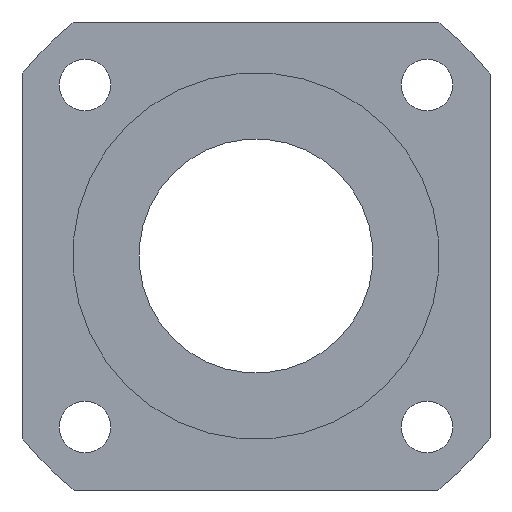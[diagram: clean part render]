
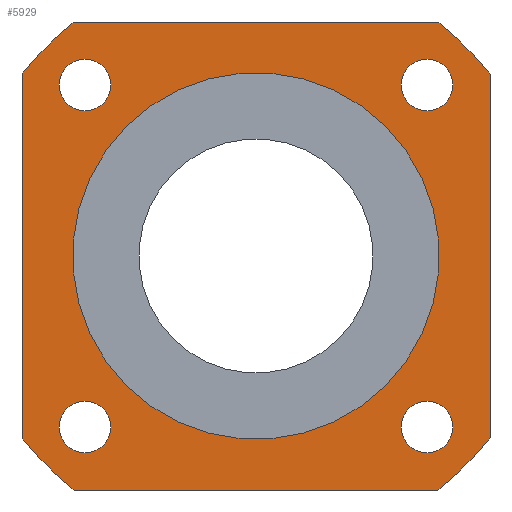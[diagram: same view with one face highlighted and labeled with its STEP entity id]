
A CAD part, left-side view. The second image highlights one B-rep face of the part: STEP entity #5929.
In plain terms, the highlighted planar face has unit normal (-1, 0, 0).
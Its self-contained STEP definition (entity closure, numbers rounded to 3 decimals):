
#108=CIRCLE('',#6289,38.);
#109=CIRCLE('',#6291,38.);
#110=CIRCLE('',#6293,38.);
#120=CIRCLE('',#6308,23.5);
#122=CIRCLE('',#6313,38.);
#123=CIRCLE('',#6314,3.3);
#124=CIRCLE('',#6315,3.3);
#125=CIRCLE('',#6316,3.3);
#126=CIRCLE('',#6317,3.3);
#546=ORIENTED_EDGE('',*,*,#2254,.T.);
#547=ORIENTED_EDGE('',*,*,#2237,.F.);
#548=ORIENTED_EDGE('',*,*,#2255,.T.);
#549=ORIENTED_EDGE('',*,*,#2240,.F.);
#550=ORIENTED_EDGE('',*,*,#2256,.T.);
#551=ORIENTED_EDGE('',*,*,#2257,.F.);
#552=ORIENTED_EDGE('',*,*,#2258,.T.);
#553=ORIENTED_EDGE('',*,*,#2235,.F.);
#554=ORIENTED_EDGE('',*,*,#2259,.T.);
#555=ORIENTED_EDGE('',*,*,#2260,.T.);
#556=ORIENTED_EDGE('',*,*,#2261,.T.);
#557=ORIENTED_EDGE('',*,*,#2262,.T.);
#558=ORIENTED_EDGE('',*,*,#2252,.T.);
#2235=EDGE_CURVE('',#3091,#3092,#108,.T.);
#2237=EDGE_CURVE('',#3093,#3094,#109,.T.);
#2240=EDGE_CURVE('',#3095,#3096,#110,.T.);
#2252=EDGE_CURVE('',#3106,#3106,#120,.T.);
#2254=EDGE_CURVE('',#3091,#3094,#3616,.T.);
#2255=EDGE_CURVE('',#3093,#3096,#3617,.T.);
#2256=EDGE_CURVE('',#3095,#3108,#3618,.T.);
#2257=EDGE_CURVE('',#3109,#3108,#122,.T.);
#2258=EDGE_CURVE('',#3109,#3092,#3619,.T.);
#2259=EDGE_CURVE('',#3110,#3110,#123,.T.);
#2260=EDGE_CURVE('',#3111,#3111,#124,.T.);
#2261=EDGE_CURVE('',#3112,#3112,#125,.T.);
#2262=EDGE_CURVE('',#3113,#3113,#126,.T.);
#3091=VERTEX_POINT('',#9346);
#3092=VERTEX_POINT('',#9348);
#3093=VERTEX_POINT('',#9352);
#3094=VERTEX_POINT('',#9353);
#3095=VERTEX_POINT('',#9358);
#3096=VERTEX_POINT('',#9359);
#3106=VERTEX_POINT('',#9386);
#3108=VERTEX_POINT('',#9395);
#3109=VERTEX_POINT('',#9397);
#3110=VERTEX_POINT('',#9400);
#3111=VERTEX_POINT('',#9402);
#3112=VERTEX_POINT('',#9404);
#3113=VERTEX_POINT('',#9406);
#3616=LINE('',#9392,#4319);
#3617=LINE('',#9393,#4320);
#3618=LINE('',#9394,#4321);
#3619=LINE('',#9398,#4322);
#4319=VECTOR('',#6882,1000.);
#4320=VECTOR('',#6883,1000.);
#4321=VECTOR('',#6884,1000.);
#4322=VECTOR('',#6887,1000.);
#4870=EDGE_LOOP('',(#546,#547,#548,#549,#550,#551,#552,#553));
#4871=EDGE_LOOP('',(#554));
#4872=EDGE_LOOP('',(#555));
#4873=EDGE_LOOP('',(#556));
#4874=EDGE_LOOP('',(#557));
#4875=EDGE_LOOP('',(#558));
#5291=FACE_BOUND('',#4870,.T.);
#5292=FACE_BOUND('',#4871,.T.);
#5293=FACE_BOUND('',#4872,.T.);
#5294=FACE_BOUND('',#4873,.T.);
#5295=FACE_BOUND('',#4874,.T.);
#5296=FACE_BOUND('',#4875,.T.);
#5656=PLANE('',#6312);
#5929=ADVANCED_FACE('',(#5291,#5292,#5293,#5294,#5295,#5296),#5656,.F.);
#6289=AXIS2_PLACEMENT_3D('',#9347,#6829,#6830);
#6291=AXIS2_PLACEMENT_3D('',#9351,#6834,#6835);
#6293=AXIS2_PLACEMENT_3D('',#9357,#6840,#6841);
#6308=AXIS2_PLACEMENT_3D('',#9385,#6872,#6873);
#6312=AXIS2_PLACEMENT_3D('',#9391,#6880,#6881);
#6313=AXIS2_PLACEMENT_3D('',#9396,#6885,#6886);
#6314=AXIS2_PLACEMENT_3D('',#9399,#6888,#6889);
#6315=AXIS2_PLACEMENT_3D('',#9401,#6890,#6891);
#6316=AXIS2_PLACEMENT_3D('',#9403,#6892,#6893);
#6317=AXIS2_PLACEMENT_3D('',#9405,#6894,#6895);
#6829=DIRECTION('',(1.,0.,0.));
#6830=DIRECTION('',(0.,0.707,-0.707));
#6834=DIRECTION('',(1.,0.,0.));
#6835=DIRECTION('',(0.,0.707,-0.707));
#6840=DIRECTION('',(1.,0.,0.));
#6841=DIRECTION('',(0.,0.707,-0.707));
#6872=DIRECTION('',(1.,0.,0.));
#6873=DIRECTION('',(0.,0.707,-0.707));
#6880=DIRECTION('',(1.,0.,0.));
#6881=DIRECTION('',(0.,0.707,-0.707));
#6882=DIRECTION('',(0.,1.,0.));
#6883=DIRECTION('',(0.,0.,-1.));
#6884=DIRECTION('',(0.,-1.,0.));
#6885=DIRECTION('',(1.,0.,0.));
#6886=DIRECTION('',(0.,0.707,-0.707));
#6887=DIRECTION('',(0.,0.,1.));
#6888=DIRECTION('',(1.,0.,0.));
#6889=DIRECTION('',(0.,0.707,-0.707));
#6890=DIRECTION('',(1.,0.,0.));
#6891=DIRECTION('',(0.,0.707,-0.707));
#6892=DIRECTION('',(1.,0.,0.));
#6893=DIRECTION('',(0.,0.707,-0.707));
#6894=DIRECTION('',(1.,0.,0.));
#6895=DIRECTION('',(0.,0.707,-0.707));
#9346=CARTESIAN_POINT('',(51.5,-23.324,30.));
#9347=CARTESIAN_POINT('',(51.5,0.,0.));
#9348=CARTESIAN_POINT('',(51.5,-30.,23.324));
#9351=CARTESIAN_POINT('',(51.5,0.,0.));
#9352=CARTESIAN_POINT('',(51.5,30.,23.324));
#9353=CARTESIAN_POINT('',(51.5,23.324,30.));
#9357=CARTESIAN_POINT('',(51.5,0.,0.));
#9358=CARTESIAN_POINT('',(51.5,23.324,-30.));
#9359=CARTESIAN_POINT('',(51.5,30.,-23.324));
#9385=CARTESIAN_POINT('',(51.5,0.,0.));
#9386=CARTESIAN_POINT('',(51.5,16.617,-16.617));
#9391=CARTESIAN_POINT('',(51.5,0.,0.));
#9392=CARTESIAN_POINT('',(51.5,30.,30.));
#9393=CARTESIAN_POINT('',(51.5,30.,-30.));
#9394=CARTESIAN_POINT('',(51.5,-30.,-30.));
#9395=CARTESIAN_POINT('',(51.5,-23.324,-30.));
#9396=CARTESIAN_POINT('',(51.5,0.,0.));
#9397=CARTESIAN_POINT('',(51.5,-30.,-23.324));
#9398=CARTESIAN_POINT('',(51.5,-30.,30.));
#9399=CARTESIAN_POINT('',(51.5,21.92,-21.92));
#9400=CARTESIAN_POINT('',(51.5,24.254,-24.254));
#9401=CARTESIAN_POINT('',(51.5,-21.92,-21.92));
#9402=CARTESIAN_POINT('',(51.5,-19.587,-24.254));
#9403=CARTESIAN_POINT('',(51.5,-21.92,21.92));
#9404=CARTESIAN_POINT('',(51.5,-19.587,19.587));
#9405=CARTESIAN_POINT('',(51.5,21.92,21.92));
#9406=CARTESIAN_POINT('',(51.5,24.254,19.587));
